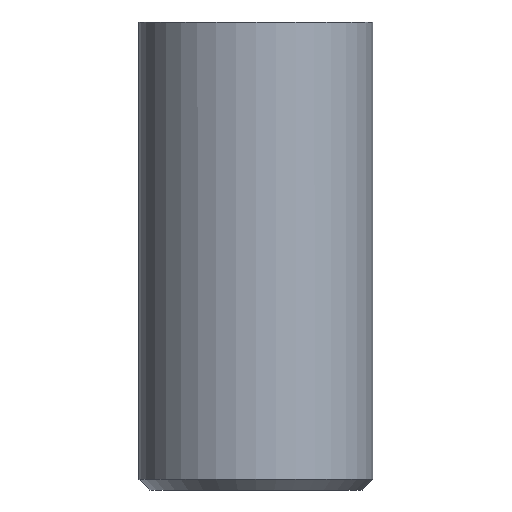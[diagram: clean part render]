
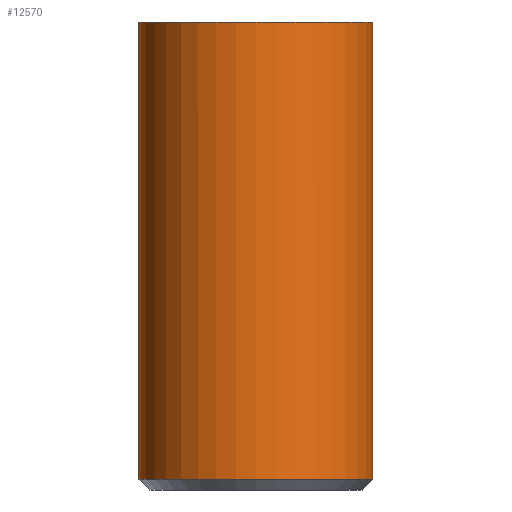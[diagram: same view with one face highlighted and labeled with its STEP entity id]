
A CAD part, front view. The second image highlights one B-rep face of the part: STEP entity #12570.
In plain terms, the highlighted cylindrical face has radius 5 mm (diameter 10 mm), a full revolution.
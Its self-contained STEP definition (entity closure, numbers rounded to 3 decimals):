
#54=CYLINDRICAL_SURFACE('',#12958,5.);
#58=CIRCLE('',#12736,5.);
#131=CIRCLE('',#12957,5.);
#1968=FACE_OUTER_BOUND('',#2684,.T.);
#2684=EDGE_LOOP('',(#11637,#11638,#11639,#11640));
#3731=LINE('',#25614,#4778);
#4778=VECTOR('',#14753,5.);
#5761=VERTEX_POINT('',#24800);
#6026=VERTEX_POINT('',#25610);
#7499=EDGE_CURVE('',#5761,#5761,#58,.T.);
#7896=EDGE_CURVE('',#6026,#6026,#131,.T.);
#7898=EDGE_CURVE('',#5761,#6026,#3731,.T.);
#11637=ORIENTED_EDGE('',*,*,#7499,.F.);
#11638=ORIENTED_EDGE('',*,*,#7898,.T.);
#11639=ORIENTED_EDGE('',*,*,#7896,.F.);
#11640=ORIENTED_EDGE('',*,*,#7898,.F.);
#12570=ADVANCED_FACE('',(#1968),#54,.T.);
#12736=AXIS2_PLACEMENT_3D('',#24801,#13982,#13983);
#12957=AXIS2_PLACEMENT_3D('',#25611,#14748,#14749);
#12958=AXIS2_PLACEMENT_3D('',#25613,#14751,#14752);
#13982=DIRECTION('center_axis',(0.,0.,1.));
#13983=DIRECTION('ref_axis',(1.,0.,0.));
#14748=DIRECTION('center_axis',(0.,0.,-1.));
#14749=DIRECTION('ref_axis',(1.,0.,0.));
#14751=DIRECTION('center_axis',(0.,0.,1.));
#14752=DIRECTION('ref_axis',(1.,0.,0.));
#14753=DIRECTION('',(0.,0.,-1.));
#24800=CARTESIAN_POINT('',(-5.,0.,20.));
#24801=CARTESIAN_POINT('Origin',(0.,0.,20.));
#25610=CARTESIAN_POINT('',(-5.,0.,0.47));
#25611=CARTESIAN_POINT('Origin',(0.,0.,0.47));
#25613=CARTESIAN_POINT('Origin',(0.,0.,0.));
#25614=CARTESIAN_POINT('',(-5.,0.,0.));
